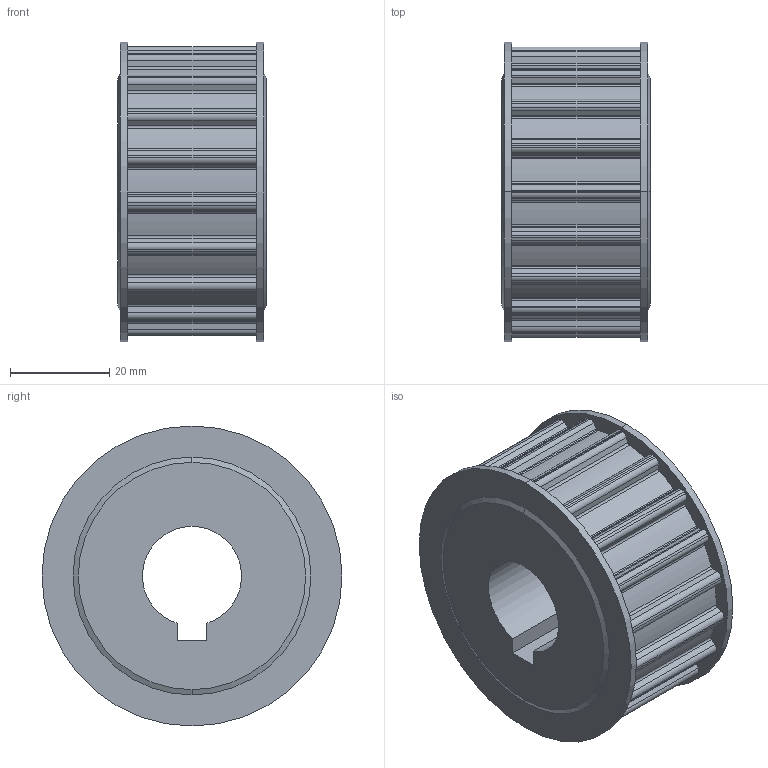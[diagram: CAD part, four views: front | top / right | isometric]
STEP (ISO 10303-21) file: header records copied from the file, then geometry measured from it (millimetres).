
FILE_DESCRIPTION (( 'STEP AP214' ), '1' );
FILE_NAME ('3.2006 Hammashihnapyörä 25AT10_19D20K6_0.STEP', '2026-02-10T08:40:11', ( '' ), ( '' ), 'SwSTEP 2.0', 'SolidWorks 2025', '' );
FILE_SCHEMA (( 'AUTOMOTIVE_DESIGN' ));
Length unit declared in the file: millimetre
Products named in the file (1): 3.2006 Hammashihnapyörä 25AT10_19D20K6_0
Bounding box: 30 x 60.5 x 60.5 mm (x, y, z)
Volume: 62845.8 mm3; surface area: 14797.8 mm2
Topology: 1 solids, 1 shells, 382 faces, 1060 edges, 706 vertices
Faces by surface type: cylinder 156, plane 150, bspline 72, cone 4
Entity records: 17113 total; most frequent: CARTESIAN_POINT 7497, ORIENTED_EDGE 2120, DIRECTION 1838, EDGE_CURVE 1060, VERTEX_POINT 706, AXIS2_PLACEMENT_3D 621, VECTOR 596, LINE 596
